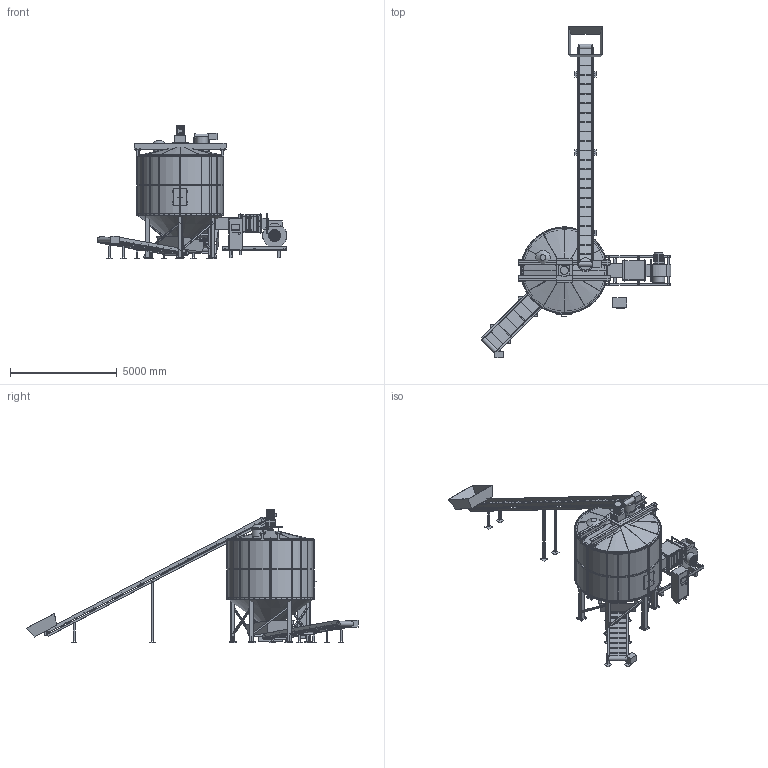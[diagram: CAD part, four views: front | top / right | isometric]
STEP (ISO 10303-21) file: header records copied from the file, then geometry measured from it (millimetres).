
FILE_DESCRIPTION(('Open CASCADE Model'),'2;1');
FILE_NAME('Open CASCADE Shape Model','2026-10-23T21:23:25',('Author'),( 'Open CASCADE'),'Open CASCADE STEP processor 7.9','Open CASCADE 7.9' ,'Unknown');
FILE_SCHEMA(('AUTOMOTIVE_DESIGN { 1 0 10303 214 1 1 1 1 }'));
Length unit declared in the file: millimetre
Products named in the file (680): FK10E_R03_Conveyors_Preliminary_mm; 01_inner_contact_sheet_t3; J01_jacket_t1p5_30deg; J02_jacket_t1p5_30deg; J03_jacket_t1p5_30deg; J04_jacket_t1p5_30deg; J05_jacket_t1p5_30deg; J06_jacket_t1p5_30deg; J07_jacket_t1p5_30deg; J08_jacket_t1p5_30deg; J09_jacket_t1p5_30deg; J10_jacket_t1p5_30deg; J11_jacket_t1p5_30deg; J12_jacket_t1p5_30deg; 02_perforated_cone_liner_schematic; 03_conical_air_plenum_outer; 04_air_plenum_top_ring; 05_roof; body_band_2050; body_band_3450; body_band_4830; stiffener_0; stiffener_1; stiffener_2; stiffener_3; stiffener_4; stiffener_5; stiffener_6; stiffener_7; leg_0; baseplate_0; brace_0; leg_1; baseplate_1; brace_1; leg_2; baseplate_2; brace_2; leg_3; baseplate_3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
Assembly tree (679 placements, depth 2):
  FK10E_R03_Conveyors_Preliminary_mm
    01_inner_contact_sheet_t3
    J01_jacket_t1p5_30deg
    J02_jacket_t1p5_30deg
    J03_jacket_t1p5_30deg
    J04_jacket_t1p5_30deg
    J05_jacket_t1p5_30deg
    J06_jacket_t1p5_30deg
    J07_jacket_t1p5_30deg
    J08_jacket_t1p5_30deg
    J09_jacket_t1p5_30deg
    J10_jacket_t1p5_30deg
    J11_jacket_t1p5_30deg
    J12_jacket_t1p5_30deg
    02_perforated_cone_liner_schematic
    03_conical_air_plenum_outer
    04_air_plenum_top_ring
    05_roof
    body_band_2050
    body_band_3450
    body_band_4830
    stiffener_0
    stiffener_1
    stiffener_2
    stiffener_3
    stiffener_4
    stiffener_5
    stiffener_6
    stiffener_7
    leg_0
    baseplate_0
    brace_0
    leg_1
    baseplate_1
    brace_1
    leg_2
    baseplate_2
    brace_2
    leg_3
    baseplate_3
    brace_3
    leg_4
    baseplate_4
    brace_4
    leg_5
    baseplate_5
    brace_5
    06_gate_upper_frame_clear500
    06b_gate_lower_frame_clear500
    gate_guide_-300
    gate_guide_300
    07_slide_gate_blade
    08_manual_gate_lead_screw
    09_manual_handwheel
    wheel_spoke_0
    wheel_spoke_90
    10_discharge_spout
    D01_bridge_I280_y-370
    D01_bridge_I280_y370
    D02_drive_base_750x1100x25
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Bounding box: 8892.44 x 15579.92 x 6260 mm (x, y, z)
Volume: 2526483178.5 mm3; surface area: 470286859.1 mm2
Topology: 679 solids, 679 shells, 5911 faces, 11955 edges, 7970 vertices
Faces by surface type: plane 4942, cylinder 946, bspline 16, cone 7
Full cylindrical faces by diameter (mm): 7 x16, 10 x60, 12 x36, 14 x24, 15 x2, 16 x160, 18 x139, 20 x77, 22 x16, 24 x51, 28 x24, 30 x1, 32 x163, 40 x16, 48 x24, 60 x6, 65 x3, 90 x22, 100 x1, 130 x5, 132 x2, 134 x2, 140 x1, 150 x1, 180 x1, 210 x4, 220 x1, 230 x6, 280 x1, 284 x1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
Entity records: 330037 total; most frequent: CARTESIAN_POINT 57540, DIRECTION 49937, LINE 31769, VECTOR 31769, ORIENTED_EDGE 23910, PCURVE 23910, DEFINITIONAL_REPRESENTATION 23910, EDGE_CURVE 11955
